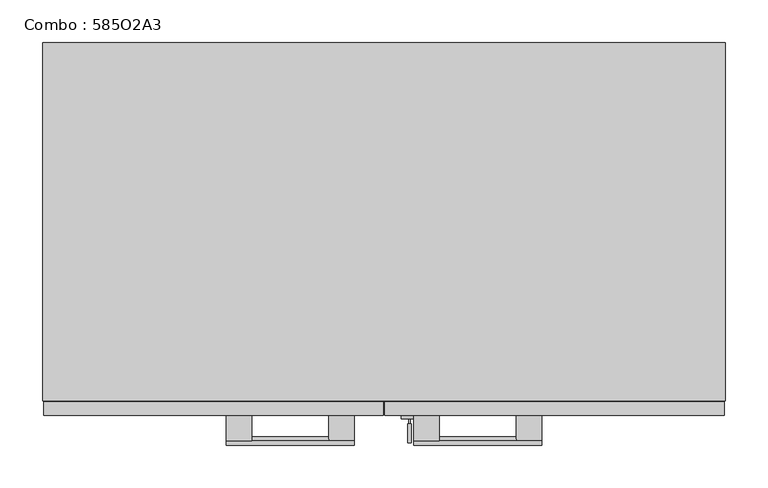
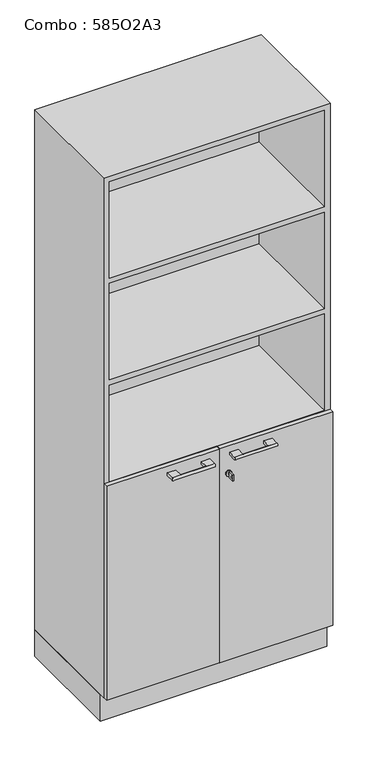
"""IFC4 building model written with IfcOpenShell, lengths in millimetres: furniture geometry, Combo : 585O2A3."""

from ifc_helpers import new_model, si_unit, point, frame, frame_2d, origin, origin_with_axes, place, context, project, spatial, polyline, circle_curve, trimmed, segment, composite_curve, outline, extrude, faceted_brep, source, transform, mapped, element, save
from ifc_brep_helpers import plane_surface, cylinder_surface, advanced_brep


def combo_585o2a3_d7f32742(model_context):
    return source(origin(), model_context, "Body", "SolidModel", [
        extrude(outline(polyline([(-400.0, -400.0), (-400.0, 0.0), (400.0, 0.0), (400.0, -400.0), (-400.0, -400.0)])), origin_with_axes(), (0.0, 0.0, 1.0), 100.0),
        extrude(outline(composite_curve([segment(trimmed(circle_curve(frame_2d((800.0, 30.0)), 10.0), [point((800.0, 20.0))], [point((800.0, 40.0))], False, "CARTESIAN"), True, "CONTINUOUS"), segment(trimmed(circle_curve(frame_2d((800.0, 30.0)), 10.0), [point((800.0, 40.0))], [point((800.0, 20.0))], False, "CARTESIAN"), True, "CONTINUOUS")], self_intersect=False)), frame((0.0, -441.0, 0.0), z_axis=(0.0, 1.0, 0.0), x_axis=(0.0, 0.0, 1.0)), (0.0, 0.0, 1.0), 4.0),
        extrude(outline(polyline([(-469.0, 789.014113), (-469.0, 811.0), (-447.0, 811.0), (-447.0, 789.014113), (-469.0, 789.014113)]), holes=[composite_curve([segment(trimmed(circle_curve(frame_2d((-462.75, 800.0070565)), 3.2230706), [point((-462.75, 803.2301271))], [point((-462.75, 796.7839859))], True, "CARTESIAN"), True, "CONTINUOUS"), segment(trimmed(circle_curve(frame_2d((-462.75, 800.0070565)), 3.2230706), [point((-462.75, 796.7839859))], [point((-462.75, 803.2301271))], True, "CARTESIAN"), True, "CONTINUOUS")], self_intersect=False)]), frame((28.0, 0.0, 0.0), z_axis=(1.0, 0.0, 0.0), x_axis=(0.0, 1.0, 0.0)), (0.0, 0.0, 1.0), 4.0416064),
        extrude(outline(polyline([(31.0416064, -447.0), (29.0, -447.0), (29.0, -441.0), (31.0416064, -441.0), (31.0416064, -447.0)])), frame((0.0, 0.0, 796.014113), z_axis=(0.0, 0.0, 1.0), x_axis=(1.0, 0.0, 0.0)), (0.0, 0.0, 1.0), 7.985887),
        advanced_brep(
        [(-185.0, -467.0, 875.0), (-185.0, -437.0, 875.0), (-185.0, -437.0, 865.0), (-185.0, -467.0, 865.0), (-155.0, -467.0, 865.0), (-155.0, -437.0, 865.0), (-155.0, -437.0, 875.0), (-155.0, -467.0, 875.0), (-35.0, -467.0, 875.0), (-35.0, -467.0, 865.0), (-35.0, -437.0, 865.0), (-35.0, -437.0, 875.0), (-65.0, -467.0, 875.0), (-65.0, -467.0, 865.0), (-65.0, -437.0, 875.0), (-65.0, -437.0, 865.0)],
        [
            (0, 1),
            (1, 2),
            (2, 3),
            (3, 0, circle_curve(frame((-185.0, -467.0, 870.0), z_axis=(-1.0, 0.0, 0.0), x_axis=(0.0, 0.0, -1.0)), 5.0)),
            (4, 5),
            (5, 6),
            (6, 7),
            (7, 4, circle_curve(frame((-155.0, -467.0, 870.0), z_axis=(-1.0, 0.0, 0.0), x_axis=(0.0, 0.0, -1.0)), 5.0)),
            (2, 5),
            (4, 3),
            (1, 6),
            (0, 7),
            (8, 9, circle_curve(frame((-35.0, -467.0, 870.0), z_axis=(1.0, 0.0, 0.0), x_axis=(0.0, 0.0, -1.0)), 5.0)),
            (9, 10),
            (10, 11),
            (11, 8),
            (8, 12),
            (12, 7),
            (4, 13),
            (13, 9),
            (12, 13, circle_curve(frame((-65.0, -467.0, 870.0), z_axis=(-1.0, 0.0, 0.0), x_axis=(0.0, 0.0, -1.0)), 5.0)),
            (12, 14),
            (14, 15),
            (15, 13),
            (15, 10),
            (14, 11),
        ],
        [
            plane_surface(frame((-185.0, -467.0, 876.0), z_axis=(-1.0, 0.0, 0.0), x_axis=(0.0, 0.0, 1.0))),
            plane_surface(frame((-155.0, -467.0, 876.0), z_axis=(1.0, 0.0, 0.0), x_axis=(0.0, 0.0, -1.0))),
            plane_surface(frame((-185.0, -437.0, 865.0), z_axis=(0.0, 0.0, -1.0), x_axis=(1.0, 0.0, 0.0))),
            plane_surface(frame((-185.0, -437.0, 875.0), z_axis=(0.0, 1.0, 0.0), x_axis=(1.0, 0.0, 0.0))),
            plane_surface(frame((-185.0, -467.0, 875.0), z_axis=(0.0, 0.0, 1.0), x_axis=(1.0, 0.0, 0.0))),
            plane_surface(frame((-35.0, -467.0, 865.0), z_axis=(1.0, 0.0, 0.0), x_axis=(0.0, 1.0, 0.0))),
            cylinder_surface(frame((-185.0, -467.0, 870.0), z_axis=(1.0, 0.0, 0.0), x_axis=(0.0, 0.0, -1.0)), 5.0),
            plane_surface(frame((-65.0, -555.7415577, 865.0), z_axis=(-1.0, 0.0, 0.0), x_axis=(0.0, -1.0, 0.0))),
            plane_surface(frame((-35.0, -467.0, 865.0), z_axis=(0.0, 0.0, -1.0), x_axis=(-1.0, 0.0, 0.0))),
            plane_surface(frame((-35.0, -437.0, 865.0), z_axis=(0.0, 1.0, 0.0), x_axis=(-1.0, 0.0, 0.0))),
            plane_surface(frame((-35.0, -437.0, 875.0), z_axis=(0.0, 0.0, 1.0), x_axis=(-1.0, 0.0, 0.0))),
        ],
        [
            (0, [[1, 2, 3, 4]]),
            (1, [[5, 6, 7, 8]]),
            (2, [[-3, 9, -5, 10]]),
            (3, [[-2, 11, -6, -9]]),
            (4, [[-1, 12, -7, -11]]),
            (5, [[13, 14, 15, 16]]),
            (6, [[-13, 17, 18, -12, -4, -10, 19, 20]]),
            (6, [[-8, -18, 21, -19]]),
            (7, [[22, 23, 24, -21]]),
            (8, [[-14, -20, -24, 25]]),
            (9, [[-15, -25, -23, 26]]),
            (10, [[-16, -26, -22, -17]]),
        ],
    ),
        advanced_brep(
        [(35.0, -467.0, 875.0), (35.0, -437.0, 875.0), (35.0, -437.0, 865.0), (35.0, -467.0, 865.0), (65.0, -467.0, 865.0), (65.0, -437.0, 865.0), (65.0, -437.0, 875.0), (65.0, -467.0, 875.0), (185.0, -467.0, 875.0), (185.0, -467.0, 865.0), (185.0, -437.0, 865.0), (185.0, -437.0, 875.0), (155.0, -467.0, 875.0), (155.0, -467.0, 865.0), (155.0, -437.0, 875.0), (155.0, -437.0, 865.0)],
        [
            (0, 1),
            (1, 2),
            (2, 3),
            (3, 0, circle_curve(frame((35.0, -467.0, 870.0), z_axis=(-1.0, 0.0, 0.0), x_axis=(0.0, 0.0, -1.0)), 5.0)),
            (4, 5),
            (5, 6),
            (6, 7),
            (7, 4, circle_curve(frame((65.0, -467.0, 870.0), z_axis=(-1.0, 0.0, 0.0), x_axis=(0.0, 0.0, -1.0)), 5.0)),
            (2, 5),
            (4, 3),
            (1, 6),
            (0, 7),
            (8, 9, circle_curve(frame((185.0, -467.0, 870.0), z_axis=(1.0, 0.0, 0.0), x_axis=(0.0, 0.0, -1.0)), 5.0)),
            (9, 10),
            (10, 11),
            (11, 8),
            (8, 12),
            (12, 7),
            (4, 13),
            (13, 9),
            (12, 13, circle_curve(frame((155.0, -467.0, 870.0), z_axis=(-1.0, 0.0, 0.0), x_axis=(0.0, 0.0, -1.0)), 5.0)),
            (12, 14),
            (14, 15),
            (15, 13),
            (15, 10),
            (14, 11),
        ],
        [
            plane_surface(frame((35.0, -467.0, 876.0), z_axis=(-1.0, 0.0, 0.0), x_axis=(0.0, 0.0, 1.0))),
            plane_surface(frame((65.0, -467.0, 876.0), z_axis=(1.0, 0.0, 0.0), x_axis=(0.0, 0.0, -1.0))),
            plane_surface(frame((35.0, -437.0, 865.0), z_axis=(0.0, 0.0, -1.0), x_axis=(1.0, 0.0, 0.0))),
            plane_surface(frame((35.0, -437.0, 875.0), z_axis=(0.0, 1.0, 0.0), x_axis=(1.0, 0.0, 0.0))),
            plane_surface(frame((35.0, -467.0, 875.0), z_axis=(0.0, 0.0, 1.0), x_axis=(1.0, 0.0, 0.0))),
            plane_surface(frame((185.0, -467.0, 865.0), z_axis=(1.0, 0.0, 0.0), x_axis=(0.0, 1.0, 0.0))),
            cylinder_surface(frame((35.0, -467.0, 870.0), z_axis=(1.0, 0.0, 0.0), x_axis=(0.0, 0.0, -1.0)), 5.0),
            plane_surface(frame((155.0, -555.7415577, 865.0), z_axis=(-1.0, 0.0, 0.0), x_axis=(0.0, -1.0, 0.0))),
            plane_surface(frame((185.0, -467.0, 865.0), z_axis=(0.0, 0.0, -1.0), x_axis=(-1.0, 0.0, 0.0))),
            plane_surface(frame((185.0, -437.0, 865.0), z_axis=(0.0, 1.0, 0.0), x_axis=(-1.0, 0.0, 0.0))),
            plane_surface(frame((185.0, -437.0, 875.0), z_axis=(0.0, 0.0, 1.0), x_axis=(-1.0, 0.0, 0.0))),
        ],
        [
            (0, [[1, 2, 3, 4]]),
            (1, [[5, 6, 7, 8]]),
            (2, [[-3, 9, -5, 10]]),
            (3, [[-2, 11, -6, -9]]),
            (4, [[-1, 12, -7, -11]]),
            (5, [[13, 14, 15, 16]]),
            (6, [[-13, 17, 18, -12, -4, -10, 19, 20]]),
            (6, [[-8, -18, 21, -19]]),
            (7, [[22, 23, 24, -21]]),
            (8, [[-14, -20, -24, 25]]),
            (9, [[-15, -25, -23, 26]]),
            (10, [[-16, -26, -22, -17]]),
        ],
    ),
        extrude(outline(polyline([(-1.0, -437.0), (-399.0, -437.0), (-399.0, -421.0), (-1.0, -421.0), (-1.0, -437.0)])), frame((0.0, 0.0, 101.0), z_axis=(0.0, 0.0, 1.0), x_axis=(1.0, 0.0, 0.0)), (0.0, 0.0, 1.0), 798.0),
        extrude(outline(polyline([(399.0, -437.0), (1.0, -437.0), (1.0, -421.0), (399.0, -421.0), (399.0, -437.0)])), frame((0.0, 0.0, 101.0), z_axis=(0.0, 0.0, 1.0), x_axis=(1.0, 0.0, 0.0)), (0.0, 0.0, 1.0), 798.0),
        faceted_brep([(400.0, 0.0, 2040.0), (-400.0, 0.0, 2040.0), (-400.0, -420.0, 2040.0), (400.0, -420.0, 2040.0), (-400.0, 0.0, 100.0), (400.0, 0.0, 100.0), (400.0, -420.0, 100.0), (-400.0, -420.0, 100.0), (380.0, -420.0, 1260.0), (380.0, -420.0, 900.0), (-380.0, -420.0, 900.0), (-380.0, -420.0, 1260.0), (380.0, -420.0, 1640.0), (380.0, -420.0, 1280.0), (-380.0, -420.0, 1280.0), (-380.0, -420.0, 1640.0), (380.0, -420.0, 2020.0), (380.0, -420.0, 1660.0), (-380.0, -420.0, 1660.0), (-380.0, -420.0, 2020.0), (380.0, -20.0, 1660.0), (380.0, -20.0, 2020.0), (-380.0, -20.0, 2020.0), (-380.0, -20.0, 1660.0), (380.0, -20.0, 900.0), (380.0, -20.0, 1260.0), (-380.0, -20.0, 1260.0), (-380.0, -20.0, 900.0), (380.0, -20.0, 1280.0), (380.0, -20.0, 1640.0), (-380.0, -20.0, 1640.0), (-380.0, -20.0, 1280.0)], [[[0, 1, 2, 3]], [[4, 5, 6, 7]], [[1, 0, 5, 4]], [[2, 1, 4, 7]], [[3, 2, 7, 6], [8, 9, 10, 11], [12, 13, 14, 15], [16, 17, 18, 19]], [[0, 3, 6, 5]], [[20, 21, 22, 23]], [[24, 25, 26, 27]], [[25, 24, 9, 8]], [[26, 25, 8, 11]], [[27, 26, 11, 10]], [[24, 27, 10, 9]], [[28, 29, 30, 31]], [[29, 28, 13, 12]], [[30, 29, 12, 15]], [[31, 30, 15, 14]], [[28, 31, 14, 13]], [[21, 20, 17, 16]], [[22, 21, 16, 19]], [[23, 22, 19, 18]], [[20, 23, 18, 17]]]),
    ])


if __name__ == "__main__":
    model = new_model("IFC4")
    model_context = context("Model", 3, world=origin())
    ifc_project = project(units=[si_unit("LENGTHUNIT", "METRE", prefix="MILLI")], contexts=[model_context])
    site = spatial("IfcSite", under=ifc_project)
    building = spatial("IfcBuilding", under=site)
    placement = place(None, origin())
    combo_585o2a3_shape = combo_585o2a3_d7f32742(model_context)
    element("IfcFurniture", 1, ObjectType="Combo : 585O2A3", at=placement, inside=building, context=model_context, shape_type="MappedRepresentation", body=[
        mapped(combo_585o2a3_shape, transform((0.0, 0.0, 0.0), x_axis=(1.0, 0.0, 0.0), y_axis=(0.0, 1.0, 0.0), z_axis=(0.0, 0.0, 1.0))),
    ])
    save(model, "model.ifc")
